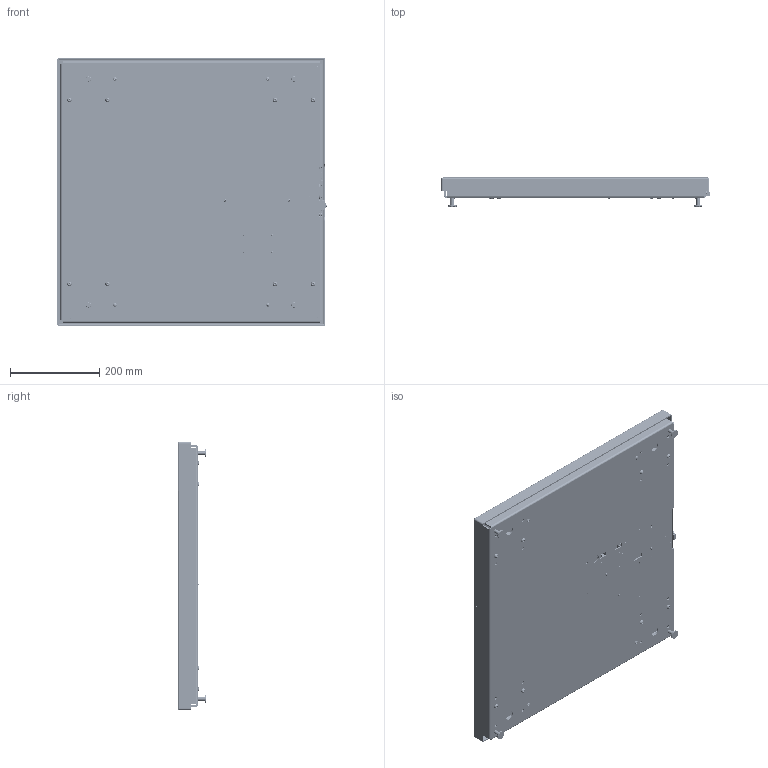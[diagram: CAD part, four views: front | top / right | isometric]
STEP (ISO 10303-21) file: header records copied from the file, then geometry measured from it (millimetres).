
FILE_DESCRIPTION (( 'STEP AP214' ), '1' );
FILE_NAME ('E-SCALE-6500PB-2424-130.STEP', '2019-08-27T23:09:50', ( '' ), ( '' ), 'SwSTEP 2.0', 'SolidWorks 2017', '' );
FILE_SCHEMA (( 'AUTOMOTIVE_DESIGN' ));
Length unit declared in the file: millimetre
Products named in the file (73): 0075230_91780A198; thru-hole standoff_pmi_PEM SO-440-4 ZI--N; hex jam nut_ai_HJNUT 0.2500-20-D-N; 0075293; 0044535; 0075294; 2140-0128-0; 0075174_3 & 4; 0018546; 0075287_C2 CHIP; 2815-0179-0_91780A166; E-SCALE-6500PB-2424-130; flat head screw_ai_CR-FHMS 0.164-32x0.875x0.875-N-A2.70; 6032-0086-06-0; 0075173_B4; Norcomp_170-009-272L000; 0509-0543-01-0; 2814-0100-0_93625A102; Wire Jumper_0.15 Inch Pitch; 0534-0564-01-0; 2813-0155-0_93475A195; 0530-0854-XX-0; Phoenix_1754465; 0075175_84-227974; Phoenix_1754452; 0509-0542-01-0; 0074883_91290A248; 0078239; 2813-0084; 2814-0098-0_90633A007; Phoenix_1803617; 0075233; 2143-T004; 0075308; Tyco_c-1-6605752-1-d-3d; 0075172_A3, A4 & A5; pan cross head_am_B18.6.7M - M2 x 0.4 x 8 Type I Cross Recessed PHMS --8N; 0075304_42-000189; 2815-0178-0_92710A203; Phoenix 1778609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
Assembly tree (137 placements, depth 4):
  E-SCALE-6500PB-2424-130
    0074904
      0074915_Modified By Hardy_Default<As Machined>
      0074918  x4
      0078239
    0075309
    0075175_84-227974  x4
      0075172_A3, A4 & A5
      0075174_3 & 4
      0075173_B4
    hex jam nut_ai_HJNUT 0.2500-20-D-N  x4
    0074757_Modified By Hardy
    0075198  x4
    0075200_93505A451  x4
    0075290
      0075233
      0018546  x4
      0075287_C2 CHIP
      0075295  x4
        0075294
        0075293
    pan cross head_ai_CR-PHMS 0.164-32x0.3125x0.3125-N-A2.70  x4
    0074881_PBSH-15kg SUB-ASSEMBLY  x4
      0074871
      0044535
      0066958
      0074883_91290A248
    0075231_PBSH-60kg 600 X 600  x4
      0075230_91780A198
      0075232_80-001903
      flat head screw_ai_CR-FHMS 0.164-32x0.875x0.875-N-A2.70
      pan cross head_ai_CR-PHMS 0.164-32x0.3125x0.3125-N-A2.70
    socket button head cap screw_am_B18.3.4M - 6 x 1.0 x 20 SBHCS --N-A2.70  x8
    0075304_42-000189  x4
    0075308  x4
    2814-0098-0_90633A007  x2
    2817-0272-0_90402A146
    2143-T004  x2
    2143-T013
    flat washer type a selected narrow_ai_Selected Narrow FW 0.125  x3
    2814-T011_90631A005
    6500 EIP Complete Board With Connectors
      0534-0564-01-0
      Phoenix 1778609
      Phoenix_1754452
      Chassis fastener Winchester Electronics A1591B  x2
      Phoenix_1803316
      Tyco_c-1-6605752-1-d-3d
      USB Connector Female
      Phoenix_1803345
      Phoenix_1754465
      Phoenix_1803617
      Phoenix_1803646
    2815-0179-0_91780A166  x2
    pan cross head_ai_CR-PHMS 0.112-40x0.3125x0.3125-N  x4
    0514-0241-01-0_Rev A
    0509-0542-01-0
    pan cross head_am_B18.6.7M - M2 x 0.4 x 8 Type I Cross Recessed PHMS --8N  x2
    2813-0155-0_93475A195  x2
    curved spring lock washer_din_Spring washer DIN 128 - A2  x2
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Bounding box: 603.77 x 64.1 x 600 mm (x, y, z)
Volume: 2818814.1 mm3; surface area: 1931920.1 mm2
Topology: 699 solids, 699 shells, 24773 faces, 64227 edges, 41819 vertices
Faces by surface type: plane 12961, bspline 6896, cylinder 3454, cone 1188, torus 212, sphere 62
Entity records: 764001 total; most frequent: CARTESIAN_POINT 220451, ORIENTED_EDGE 94302, DIRECTION 64361, EDGE_CURVE 47151, VERTEX_POINT 30946, VECTOR 29723, LINE 29723, EDGE_LOOP 19561
